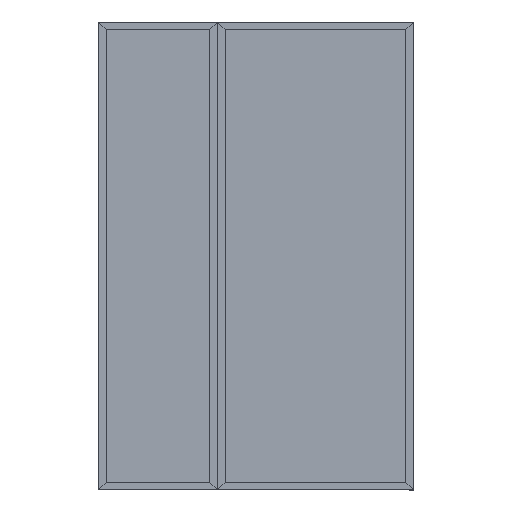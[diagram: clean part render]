
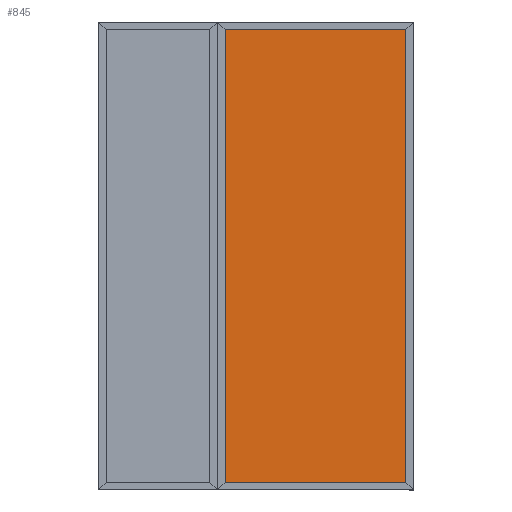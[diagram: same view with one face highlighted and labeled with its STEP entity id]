
A CAD part, top view. The second image highlights one B-rep face of the part: STEP entity #845.
In plain terms, the highlighted planar face has unit normal (0, 0, 1).
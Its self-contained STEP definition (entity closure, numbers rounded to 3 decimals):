
#578 = VERTEX_POINT ( 'NONE', #16040 ) ;
#845 = ADVANCED_FACE ( 'NONE', ( #22212 ), #44404, .F. ) ;
#4031 = DIRECTION ( 'NONE',  ( -1., 0., 0. ) ) ;
#4178 = VERTEX_POINT ( 'NONE', #38770 ) ;
#4987 = VERTEX_POINT ( 'NONE', #18857 ) ;
#7564 = DIRECTION ( 'NONE',  ( -1., 0., 0. ) ) ;
#7767 = VECTOR ( 'NONE', #24575, 1000. ) ;
#8422 = EDGE_CURVE ( 'NONE', #4178, #18979, #36479, .T. ) ;
#8893 = VECTOR ( 'NONE', #7564, 1000. ) ;
#9031 = CARTESIAN_POINT ( 'NONE',  ( -465.07, 0., -13.25 ) ) ;
#12098 = CARTESIAN_POINT ( 'NONE',  ( 0., 1162.2, -13.25 ) ) ;
#12149 = CARTESIAN_POINT ( 'NONE',  ( 465.07, 1162.2, -13.25 ) ) ;
#12818 = EDGE_CURVE ( 'NONE', #4987, #578, #37279, .T. ) ;
#12825 = ORIENTED_EDGE ( 'NONE', *, *, #8422, .T. ) ;
#13202 = DIRECTION ( 'NONE',  ( -1., 0., 0. ) ) ;
#14573 = DIRECTION ( 'NONE',  ( 0., 0., -1. ) ) ;
#16040 = CARTESIAN_POINT ( 'NONE',  ( -465.07, 1162.2, -13.25 ) ) ;
#16780 = CARTESIAN_POINT ( 'NONE',  ( 0., -1162.2, -13.25 ) ) ;
#17171 = EDGE_CURVE ( 'NONE', #4178, #4987, #46401, .T. ) ;
#18857 = CARTESIAN_POINT ( 'NONE',  ( -465.07, -1162.2, -13.25 ) ) ;
#18979 = VERTEX_POINT ( 'NONE', #12149 ) ;
#21921 = CARTESIAN_POINT ( 'NONE',  ( 465.07, 0., -13.25 ) ) ;
#22097 = VECTOR ( 'NONE', #31019, 1000. ) ;
#22212 = FACE_OUTER_BOUND ( 'NONE', #26001, .T. ) ;
#23353 = EDGE_CURVE ( 'NONE', #18979, #578, #25735, .T. ) ;
#24575 = DIRECTION ( 'NONE',  ( 0., 1., 0. ) ) ;
#25735 = LINE ( 'NONE', #12098, #8893 ) ;
#26001 = EDGE_LOOP ( 'NONE', ( #41927, #28741, #12825, #37808 ) ) ;
#28741 = ORIENTED_EDGE ( 'NONE', *, *, #17171, .F. ) ;
#31019 = DIRECTION ( 'NONE',  ( 0., 1., 0. ) ) ;
#34906 = VECTOR ( 'NONE', #13202, 1000. ) ;
#36479 = LINE ( 'NONE', #21921, #7767 ) ;
#36771 = CARTESIAN_POINT ( 'NONE',  ( 0., 0., -13.25 ) ) ;
#37279 = LINE ( 'NONE', #9031, #22097 ) ;
#37808 = ORIENTED_EDGE ( 'NONE', *, *, #23353, .T. ) ;
#38770 = CARTESIAN_POINT ( 'NONE',  ( 465.07, -1162.2, -13.25 ) ) ;
#41927 = ORIENTED_EDGE ( 'NONE', *, *, #12818, .F. ) ;
#42957 = AXIS2_PLACEMENT_3D ( 'NONE', #36771, #14573, #4031 ) ;
#44404 = PLANE ( 'NONE',  #42957 ) ;
#46401 = LINE ( 'NONE', #16780, #34906 ) ;
